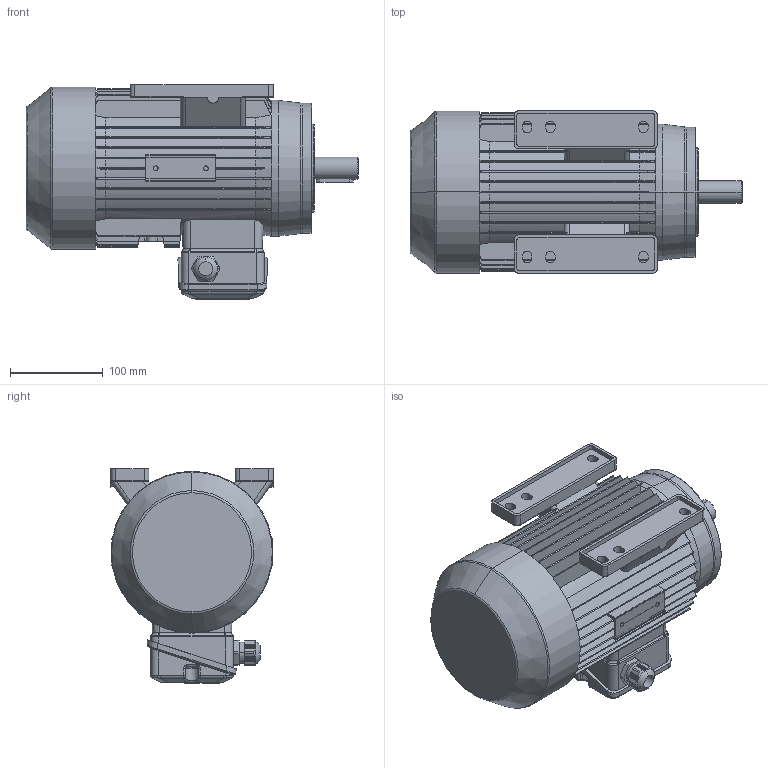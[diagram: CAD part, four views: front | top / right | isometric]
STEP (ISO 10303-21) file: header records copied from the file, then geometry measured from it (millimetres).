
FILE_DESCRIPTION (( 'STEP AP214' ), '1' );
FILE_NAME ('MAP90L6A IM2141 FT115.STEP', '2021-04-28T08:04:18', ( '' ), ( '' ), 'SwSTEP 2.0', 'SolidWorks 2018', '' );
FILE_SCHEMA (( 'AUTOMOTIVE_DESIGN' ));
Length unit declared in the file: millimetre
Products named in the file (1): MAP90L6A IM2141 FT115
Bounding box: 357 x 174.5 x 231 mm (x, y, z)
Volume: 6270348.6 mm3; surface area: 448727.4 mm2
Topology: 2 solids, 8 shells, 1228 faces, 3268 edges, 2094 vertices
Faces by surface type: plane 570, cylinder 322, cone 156, bspline 122, torus 56, sphere 2
Entity records: 46143 total; most frequent: CARTESIAN_POINT 17424, ORIENTED_EDGE 6524, DIRECTION 5288, EDGE_CURVE 3262, VERTEX_POINT 2094, AXIS2_PLACEMENT_3D 1823, LINE 1642, VECTOR 1642
